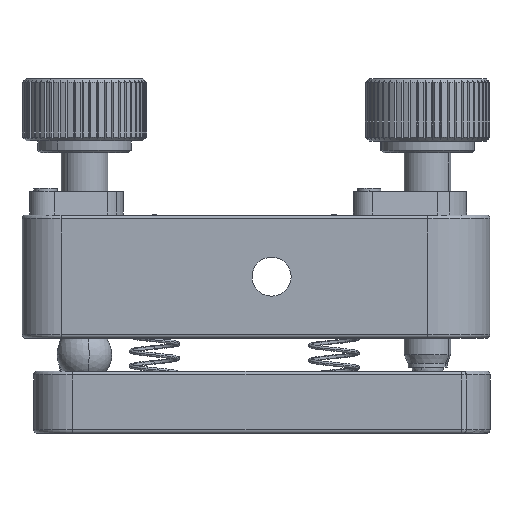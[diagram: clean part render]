
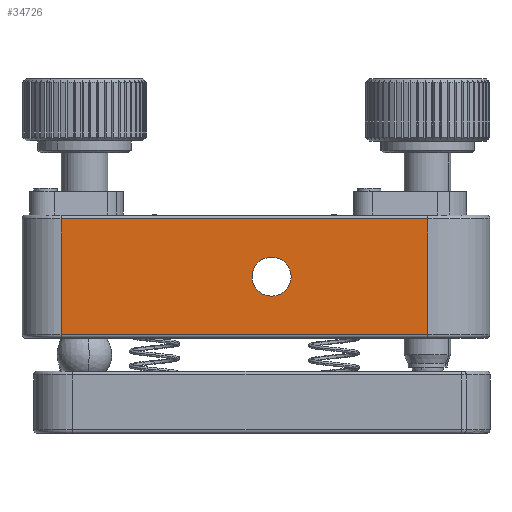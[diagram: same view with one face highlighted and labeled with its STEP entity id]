
A CAD part, front view. The second image highlights one B-rep face of the part: STEP entity #34726.
In plain terms, the highlighted planar face has unit normal (0, -1, 0).
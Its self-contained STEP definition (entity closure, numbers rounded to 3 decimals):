
#1398 = DIRECTION ( 'NONE',  ( -1., 0., 0. ) ) ;
#1547 = DIRECTION ( 'NONE',  ( 0., 0., -1. ) ) ;
#1742 = EDGE_CURVE ( 'NONE', #3334, #25683, #15919, .T. ) ;
#2189 = FACE_BOUND ( 'NONE', #16363, .T. ) ;
#3001 = DIRECTION ( 'NONE',  ( 0., -1., 0. ) ) ;
#3334 = VERTEX_POINT ( 'NONE', #15207 ) ;
#4353 = LINE ( 'NONE', #16072, #12477 ) ;
#4858 = DIRECTION ( 'NONE',  ( 0., 0., -1. ) ) ;
#4900 = DIRECTION ( 'NONE',  ( 0., -1., 0. ) ) ;
#4921 = ORIENTED_EDGE ( 'NONE', *, *, #12504, .F. ) ;
#5090 = VECTOR ( 'NONE', #4858, 1000. ) ;
#7350 = CARTESIAN_POINT ( 'NONE',  ( 76.652, 21.266, -43.489 ) ) ;
#8478 = CARTESIAN_POINT ( 'NONE',  ( 29.652, 21.266, -58.289 ) ) ;
#9535 = EDGE_CURVE ( 'NONE', #27350, #18444, #4353, .T. ) ;
#10614 = ORIENTED_EDGE ( 'NONE', *, *, #9535, .T. ) ;
#11011 = AXIS2_PLACEMENT_3D ( 'NONE', #29285, #3001, #14715 ) ;
#11037 = DIRECTION ( 'NONE',  ( 0., -1., 0. ) ) ;
#11042 = VERTEX_POINT ( 'NONE', #7350 ) ;
#11373 = ORIENTED_EDGE ( 'NONE', *, *, #21066, .F. ) ;
#11557 = CARTESIAN_POINT ( 'NONE',  ( 76.652, 21.266, -58.289 ) ) ;
#12477 = VECTOR ( 'NONE', #27757, 1000. ) ;
#12504 = EDGE_CURVE ( 'NONE', #11042, #18444, #19467, .T. ) ;
#12581 = CIRCLE ( 'NONE', #34025, 2.5 ) ;
#13903 = FACE_OUTER_BOUND ( 'NONE', #32323, .T. ) ;
#14715 = DIRECTION ( 'NONE',  ( 1., 0., 0. ) ) ;
#15207 = CARTESIAN_POINT ( 'NONE',  ( 59.152, 21.266, -50.889 ) ) ;
#15919 = CIRCLE ( 'NONE', #11011, 2.5 ) ;
#15992 = LINE ( 'NONE', #27679, #27400 ) ;
#16072 = CARTESIAN_POINT ( 'NONE',  ( 76.652, 21.266, -58.289 ) ) ;
#16139 = LINE ( 'NONE', #27825, #18760 ) ;
#16264 = EDGE_CURVE ( 'NONE', #11042, #24257, #15992, .T. ) ;
#16363 = EDGE_LOOP ( 'NONE', ( #25826, #11373 ) ) ;
#16508 = CARTESIAN_POINT ( 'NONE',  ( 29.652, 21.266, -43.489 ) ) ;
#16629 = DIRECTION ( 'NONE',  ( 1., 0., 0. ) ) ;
#18444 = VERTEX_POINT ( 'NONE', #11557 ) ;
#18760 = VECTOR ( 'NONE', #1547, 1000. ) ;
#19467 = LINE ( 'NONE', #31147, #5090 ) ;
#21066 = EDGE_CURVE ( 'NONE', #25683, #3334, #12581, .T. ) ;
#22755 = DIRECTION ( 'NONE',  ( 0., 0., -1. ) ) ;
#24257 = VERTEX_POINT ( 'NONE', #16508 ) ;
#25028 = CARTESIAN_POINT ( 'NONE',  ( 54.152, 21.266, -50.889 ) ) ;
#25618 = PLANE ( 'NONE',  #32433 ) ;
#25683 = VERTEX_POINT ( 'NONE', #25028 ) ;
#25826 = ORIENTED_EDGE ( 'NONE', *, *, #1742, .F. ) ;
#27350 = VERTEX_POINT ( 'NONE', #8478 ) ;
#27400 = VECTOR ( 'NONE', #1398, 1000. ) ;
#27679 = CARTESIAN_POINT ( 'NONE',  ( 56.652, 21.266, -43.489 ) ) ;
#27757 = DIRECTION ( 'NONE',  ( 1., 0., 0. ) ) ;
#27825 = CARTESIAN_POINT ( 'NONE',  ( 29.652, 21.266, -42.989 ) ) ;
#29251 = EDGE_CURVE ( 'NONE', #24257, #27350, #16139, .T. ) ;
#29285 = CARTESIAN_POINT ( 'NONE',  ( 56.652, 21.266, -50.889 ) ) ;
#31147 = CARTESIAN_POINT ( 'NONE',  ( 76.652, 21.266, -42.989 ) ) ;
#31192 = CARTESIAN_POINT ( 'NONE',  ( 56.652, 21.266, -50.889 ) ) ;
#32323 = EDGE_LOOP ( 'NONE', ( #37336, #10614, #4921, #37701 ) ) ;
#32433 = AXIS2_PLACEMENT_3D ( 'NONE', #37332, #11037, #22755 ) ;
#34025 = AXIS2_PLACEMENT_3D ( 'NONE', #31192, #4900, #16629 ) ;
#34726 = ADVANCED_FACE ( 'NONE', ( #2189, #13903 ), #25618, .T. ) ;
#37332 = CARTESIAN_POINT ( 'NONE',  ( 56.652, 21.266, -42.989 ) ) ;
#37336 = ORIENTED_EDGE ( 'NONE', *, *, #29251, .T. ) ;
#37701 = ORIENTED_EDGE ( 'NONE', *, *, #16264, .T. ) ;
